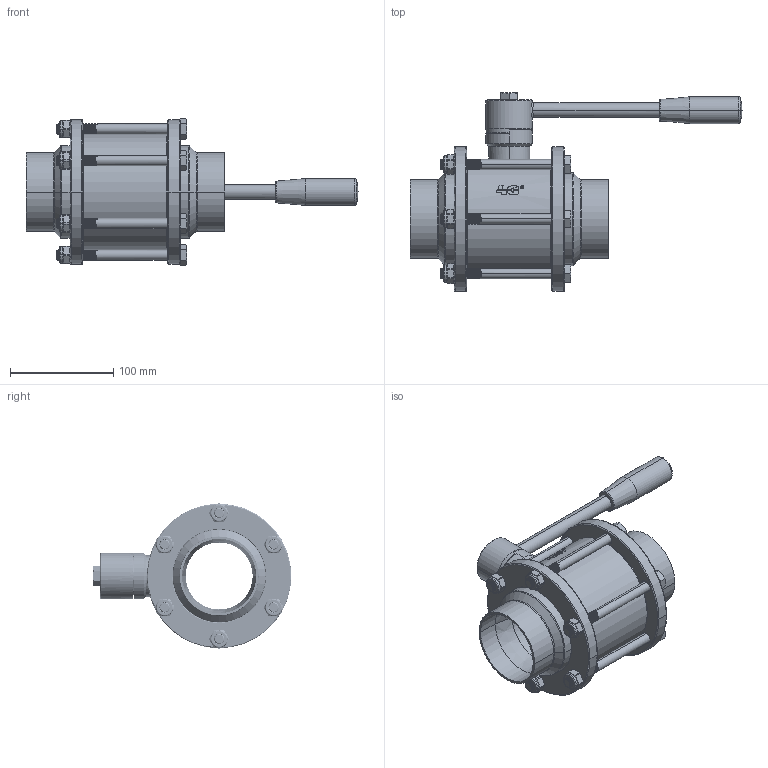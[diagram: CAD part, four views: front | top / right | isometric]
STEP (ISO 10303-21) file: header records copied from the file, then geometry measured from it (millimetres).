
FILE_DESCRIPTION((''),'2;1');
FILE_NAME('5201426U610','2026-01-29T15:39:31',('tecnico2'),('CDM Tecnoconsulting'),'CREO PARAMETRIC BY PTC INC, 2024063','CREO PARAMETRIC BY PTC INC, 2024063','');
FILE_SCHEMA(('CONFIG_CONTROL_DESIGN','SHAPE_APPEARANCE_LAYERS_GROUPS'));
Length unit declared in the file: millimetre
Products named in the file (1): 5201426U610
Bounding box: 321.6 x 192.5 x 141.63 mm (x, y, z)
Volume: 1022246.1 mm3; surface area: 285926.6 mm2
Topology: 1 solids, 1 shells, 1535 faces, 4219 edges, 2674 vertices
Faces by surface type: cylinder 552, plane 418, bspline 234, cone 219, extrusion 56, torus 50, sphere 6
Entity records: 185176 total; most frequent: CARTESIAN_POINT 136470, ORIENTED_EDGE 8402, DIRECTION 5935, PRESENTATION_STYLE_ASSIGNMENT 4259, STYLED_ITEM 4202, CURVE_STYLE 4201, EDGE_CURVE 4201, VERTEX_POINT 2674
